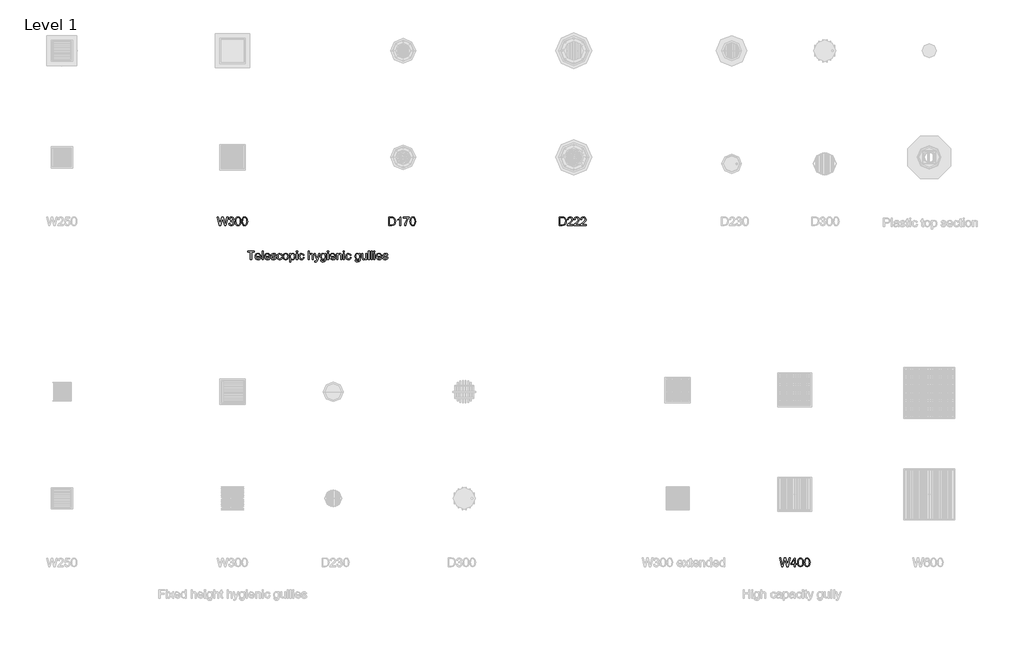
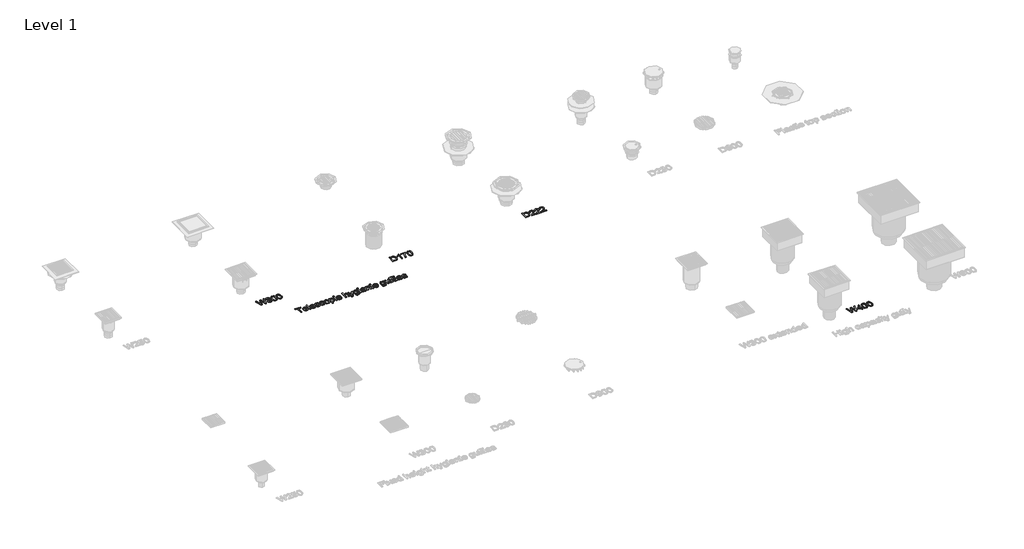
# One storey, part 4 of 5: 5 proxies.
"""IFC4 building model written with IfcOpenShell, lengths in millimetres."""

from ifc_helpers import new_model, si_unit, origin, origin_with_axes, place, context, project, spatial, polyline, outline, extrude, element, save

model = new_model("IFC4")

# Units and contexts
model_context = context("Model", 3, world=origin())
ifc_project = project(units=[si_unit("LENGTHUNIT", "METRE", prefix="MILLI")], contexts=[model_context])

# Site, building, storey
site = spatial("IfcSite", under=ifc_project)
building = spatial("IfcBuilding", under=site)
storey = spatial("IfcBuildingStorey", under=building, Name="Level 1", Elevation=0.0)

# Proxies
placement = place(None, origin())
element("IfcBuildingElementProxy", 1, Name="100mm ACO", ObjectType="100mm ACO", at=placement, inside=storey, context=model_context, shape_type="SweptSolid", body=[
    extrude(outline(polyline([(256.4814815, -2911.1111111), (223.1481481, -2911.1111111), (223.1481481, -3000.0), (210.1851852, -3000.0), (210.1851852, -2911.1111111), (176.8518519, -2911.1111111), (176.8518519, -2900.0), (256.4814815, -2900.0), (256.4814815, -2911.1111111)])), origin_with_axes(), (0.0, 0.0, 1.0), 10.0),
    extrude(outline(polyline([(332.4074074, -2966.6666667), (278.7037037, -2966.6666667), (280.7761863, -2977.7922454), (285.4890046, -2985.9375), (292.2706887, -2990.9288194), (300.5497685, -2992.5925926), (312.2251157, -2988.9033565), (319.4444444, -2977.7777778), (332.4074074, -2979.2824074), (328.0309606, -2988.9033565), (321.09375, -2996.0069444), (311.8489583, -3000.390625), (300.5497685, -3001.8518519), (285.9628183, -2999.3453414), (274.9565972, -2991.8258102), (268.0447049, -2979.9660012), (265.7407407, -2964.4386574), (267.9615162, -2948.900463), (274.6238426, -2936.6030093), (285.3226273, -2928.5951968), (299.6527778, -2925.9259259), (314.8726852, -2929.3836806), (327.3003472, -2941.1603009), (331.1306424, -2951.6963252), (332.4074074, -2966.6666667)]), holes=[polyline([(319.4444444, -2957.4074074), (317.3611111, -2947.2511574), (312.6157407, -2940.3935185), (299.3344907, -2935.1851852), (291.478588, -2936.7332176), (285.15625, -2941.3773148), (278.7037037, -2957.4074074), (319.4444444, -2957.4074074)])]), origin_with_axes(), (0.0, 0.0, 1.0), 10.0),
    extrude(outline(polyline([(360.1851852, -3000.0), (347.2222222, -3000.0), (347.2222222, -2900.0), (360.1851852, -2900.0), (360.1851852, -3000.0)])), origin_with_axes(), (0.0, 0.0, 1.0), 10.0),
    extrude(outline(polyline([(441.6666667, -2966.6666667), (387.962963, -2966.6666667), (390.0354456, -2977.7922454), (394.7482639, -2985.9375), (401.5299479, -2990.9288194), (409.8090278, -2992.5925926), (421.484375, -2988.9033565), (428.7037037, -2977.7777778), (441.6666667, -2979.2824074), (437.2902199, -2988.9033565), (430.3530093, -2996.0069444), (421.1082176, -3000.390625), (409.8090278, -3001.8518519), (395.2220775, -2999.3453414), (384.2158565, -2991.8258102), (377.3039641, -2979.9660012), (375.0, -2964.4386574), (377.2207755, -2948.900463), (383.8831019, -2936.6030093), (394.5818866, -2928.5951968), (408.912037, -2925.9259259), (424.1319444, -2929.3836806), (436.5596065, -2941.1603009), (440.3899016, -2951.6963252), (441.6666667, -2966.6666667)]), holes=[polyline([(428.7037037, -2957.4074074), (426.6203704, -2947.2511574), (421.875, -2940.3935185), (408.59375, -2935.1851852), (400.7378472, -2936.7332176), (394.4155093, -2941.3773148), (387.962963, -2957.4074074), (428.7037037, -2957.4074074)])]), origin_with_axes(), (0.0, 0.0, 1.0), 10.0),
    extrude(outline(polyline([(497.2222222, -2948.1481481), (492.4334491, -2938.4259259), (481.3657407, -2935.1851852), (470.0520833, -2937.962963), (465.7407407, -2946.0358796), (468.5908565, -2953.1828704), (482.03125, -2957.0601852), (499.7540509, -2961.2268519), (508.7962963, -2967.5491898), (512.037037, -2978.8773148), (510.0260417, -2987.8074363), (503.9930556, -2995.2112269), (494.5963542, -3000.1916956), (482.494213, -3001.8518519), (470.0195312, -3000.4557292), (460.6047454, -2996.2673611), (454.2426215, -2989.2939815), (450.9259259, -2979.5428241), (463.8888889, -2977.7777778), (469.4878472, -2988.9033565), (482.494213, -2992.5925926), (494.7916667, -2988.7586806), (499.0740741, -2979.4270833), (497.1498843, -2973.4519676), (492.3466435, -2970.0810185), (478.7615741, -2967.1875), (457.8269676, -2959.375), (452.7777778, -2946.7881944), (454.6477141, -2938.5018808), (460.2575231, -2931.8142361), (469.0285012, -2927.3980035), (480.3819444, -2925.9259259), (492.3140914, -2927.2135417), (501.2586806, -2931.0763889), (507.2157118, -2937.5072338), (510.1851852, -2946.4988426), (497.2222222, -2948.1481481)])), origin_with_axes(), (0.0, 0.0, 1.0), 10.0),
    extrude(outline(polyline([(586.1111111, -2975.5497685), (582.0818866, -2987.3553241), (574.9131944, -2995.5150463), (565.588831, -3000.2676505), (555.0925926, -3001.8518519), (540.7769097, -2999.2621528), (530.1215278, -2991.4930556), (523.5026042, -2979.4487847), (521.2962963, -2964.0335648), (526.3310185, -2941.3483796), (538.9322917, -2929.3836806), (554.8321759, -2925.9259259), (574.291088, -2931.5827546), (580.8268229, -2938.566985), (584.2592593, -2948.2060185), (571.2962963, -2950.0), (565.3935185, -2938.9033565), (554.9768519, -2935.1851852), (546.021412, -2937.0695891), (539.525463, -2942.7228009), (535.5758102, -2951.7541956), (534.2592593, -2963.7731481), (535.5794271, -2976.0018808), (539.5399306, -2985.083912), (545.98886, -2990.7154225), (554.7743056, -2992.5925926), (567.3755787, -2987.962963), (573.1481481, -2974.0740741), (586.1111111, -2975.5497685)])), origin_with_axes(), (0.0, 0.0, 1.0), 10.0),
    extrude(outline(polyline([(623.119213, -2925.9259259), (636.2955729, -2928.3203125), (647.0052083, -2935.5034722), (654.1124132, -2947.0992477), (656.4814815, -2962.7314815), (653.9171007, -2981.0040509), (646.2239583, -2992.9976852), (635.3190104, -2999.6383102), (623.119213, -3001.8518519), (610.5287905, -2999.5768229), (599.7251157, -2992.7517361), (592.29239, -2980.9859664), (589.8148148, -2963.8888889), (592.2092014, -2947.1715856), (599.3923611, -2935.3298611), (610.1128472, -2928.2769097), (623.119213, -2925.9259259)]), holes=[polyline([(623.119213, -2992.5925926), (631.92636, -2990.5852141), (638.3246528, -2984.5630787), (643.5185185, -2963.4259259), (642.0500579, -2951.1429398), (637.6446759, -2942.3032407), (631.0763889, -2936.9646991), (623.119213, -2935.1851852), (615.0065104, -2936.9900174), (608.4924769, -2942.4045139), (604.2064525, -2951.3925058), (602.7777778, -2963.9178241), (604.2317708, -2976.3997396), (608.59375, -2985.3732639), (615.1331019, -2990.7877604), (623.119213, -2992.5925926)])]), origin_with_axes(), (0.0, 0.0, 1.0), 10.0),
    extrude(outline(polyline([(684.3894676, -2936.4872685), (692.8457755, -2928.5662616), (704.5138889, -2925.9259259), (716.8402778, -2928.515625), (726.2731481, -2936.2847222), (732.2627315, -2948.2132523), (734.2592593, -2963.28125), (732.0023148, -2979.1702836), (725.2314815, -2991.4207176), (715.1765046, -2999.2440683), (703.0671296, -3001.8518519), (692.6938657, -2999.7251157), (684.6064815, -2993.3449074), (684.2592593, -3027.7777778), (671.2962963, -3027.7777778), (671.2962963, -2927.7777778), (684.2592593, -2927.7777778), (684.3894676, -2936.4872685)]), holes=[polyline([(701.6493056, -2992.5925926), (709.4220197, -2990.766059), (715.7262731, -2985.2864583), (719.9037905, -2976.1899595), (721.2962963, -2963.5127315), (719.9544271, -2951.4359086), (715.9288194, -2942.5202546), (709.8126447, -2937.0189525), (702.1990741, -2935.1851852), (694.317853, -2937.2287326), (687.9774306, -2943.359375), (683.7999132, -2952.7452257), (682.4074074, -2964.5543981), (683.7420428, -2976.66739), (687.7459491, -2985.4600694), (693.891059, -2990.8094618), (701.6493056, -2992.5925926)])]), origin_with_axes(), (0.0, 0.0, 1.0), 10.0),
    extrude(outline(polyline([(762.037037, -3000.0), (749.0740741, -3000.0), (749.0740741, -2927.7777778), (762.037037, -2927.7777778), (762.037037, -3000.0)])), origin_with_axes(), (0.0, 0.0, 1.0), 10.0),
    extrude(outline(polyline([(762.037037, -2912.962963), (749.0740741, -2912.962963), (749.0740741, -2900.0), (762.037037, -2900.0), (762.037037, -2912.962963)])), origin_with_axes(), (0.0, 0.0, 1.0), 10.0),
    extrude(outline(polyline([(841.6666667, -2975.5497685), (837.6374421, -2987.3553241), (830.46875, -2995.5150463), (821.1443866, -3000.2676505), (810.6481481, -3001.8518519), (796.3324653, -2999.2621528), (785.6770833, -2991.4930556), (779.0581597, -2979.4487847), (776.8518519, -2964.0335648), (781.8865741, -2941.3483796), (794.4878472, -2929.3836806), (810.3877315, -2925.9259259), (829.8466435, -2931.5827546), (836.3823785, -2938.566985), (839.8148148, -2948.2060185), (826.8518519, -2950.0), (820.9490741, -2938.9033565), (810.5324074, -2935.1851852), (801.5769676, -2937.0695891), (795.0810185, -2942.7228009), (791.1313657, -2951.7541956), (789.8148148, -2963.7731481), (791.1349826, -2976.0018808), (795.0954861, -2985.083912), (801.5444155, -2990.7154225), (810.3298611, -2992.5925926), (822.9311343, -2987.962963), (828.7037037, -2974.0740741), (841.6666667, -2975.5497685)])), origin_with_axes(), (0.0, 0.0, 1.0), 10.0),
    extrude(outline(polyline([(947.2222222, -3000.0), (934.2592593, -3000.0), (934.2592593, -2953.2986111), (930.5700231, -2939.7135417), (919.5601852, -2935.1851852), (906.6261574, -2940.5237269), (902.3509838, -2947.9564525), (900.9259259, -2959.5775463), (900.9259259, -3000.0), (887.962963, -3000.0), (887.962963, -2900.0), (900.9259259, -2900.0), (900.9259259, -2935.8217593), (910.6264468, -2928.3998843), (922.4826389, -2925.9259259), (935.7638889, -2928.7905093), (944.6614583, -2937.6012731), (947.2222222, -2954.1087963), (947.2222222, -3000.0)])), origin_with_axes(), (0.0, 0.0, 1.0), 10.0),
    extrude(outline(polyline([(1023.1481481, -2927.7777778), (995.9780093, -3001.9386574), (986.9357639, -3021.2818287), (980.8485243, -3026.1537905), (972.6273148, -3027.7777778), (965.0462963, -3026.6203704), (963.8888889, -3016.6666667), (970.4282407, -3018.5185185), (979.2824074, -3014.5543981), (985.15625, -3001.0706019), (958.3333333, -2927.7777778), (970.0520833, -2927.7777778), (987.6736111, -2973.8715278), (991.0011574, -2984.8090278), (995.9201389, -2971.1226852), (1011.4583333, -2927.7777778), (1023.1481481, -2927.7777778)])), origin_with_axes(), (0.0, 0.0, 1.0), 10.0),
    extrude(outline(polyline([(1093.5185185, -2989.3518519), (1090.4658565, -3011.9936343), (1079.6006944, -3023.6255787), (1060.9375, -3027.7777778), (1049.7214988, -3026.3708044), (1040.552662, -3022.1498843), (1034.4437211, -3014.7243924), (1032.4074074, -3003.7037037), (1045.3703704, -3005.7581019), (1049.9421296, -3015.3211806), (1061.1400463, -3018.5185185), (1074.4502315, -3014.8292824), (1079.615162, -3005.8449074), (1080.5555556, -2991.2326389), (1071.7809606, -2997.8081597), (1060.9664352, -3000.0), (1048.5749421, -2997.3885995), (1038.8888889, -2989.5543981), (1032.6388889, -2977.7416088), (1030.5555556, -2963.1944444), (1032.5376157, -2948.5532407), (1038.4837963, -2936.5740741), (1047.9311343, -2928.587963), (1060.4166667, -2925.9259259), (1071.4916088, -2928.3058449), (1080.2951389, -2935.4456019), (1080.5555556, -2927.7777778), (1093.5185185, -2927.7777778), (1093.5185185, -2989.3518519)]), holes=[polyline([(1062.9050926, -2990.7407407), (1070.1171875, -2989.134838), (1076.4756944, -2984.3171296), (1080.9244792, -2975.7233796), (1082.4074074, -2962.7893519), (1080.9932002, -2951.0018808), (1076.7505787, -2942.3177083), (1070.4246238, -2936.968316), (1062.7604167, -2935.1851852), (1055.0383391, -2937.0117187), (1048.8859954, -2942.4913194), (1044.8603877, -2951.1465567), (1043.5185185, -2962.5), (1044.9254919, -2975.2170139), (1049.146412, -2983.9699074), (1055.4000289, -2989.0480324), (1062.9050926, -2990.7407407)])]), origin_with_axes(), (0.0, 0.0, 1.0), 10.0),
    extrude(outline(polyline([(1125.0, -2912.962963), (1112.037037, -2912.962963), (1112.037037, -2900.0), (1125.0, -2900.0), (1125.0, -2912.962963)])), origin_with_axes(), (0.0, 0.0, 1.0), 10.0),
    extrude(outline(polyline([(1125.0, -3000.0), (1112.037037, -3000.0), (1112.037037, -2927.7777778), (1125.0, -2927.7777778), (1125.0, -3000.0)])), origin_with_axes(), (0.0, 0.0, 1.0), 10.0),
    extrude(outline(polyline([(1206.4814815, -2966.6666667), (1152.7777778, -2966.6666667), (1154.8502604, -2977.7922454), (1159.5630787, -2985.9375), (1166.3447627, -2990.9288194), (1174.6238426, -2992.5925926), (1186.2991898, -2988.9033565), (1193.5185185, -2977.7777778), (1206.4814815, -2979.2824074), (1202.1050347, -2988.9033565), (1195.1678241, -2996.0069444), (1185.9230324, -3000.390625), (1174.6238426, -3001.8518519), (1160.0368924, -2999.3453414), (1149.0306713, -2991.8258102), (1142.1187789, -2979.9660012), (1139.8148148, -2964.4386574), (1142.0355903, -2948.900463), (1148.6979167, -2936.6030093), (1159.3967014, -2928.5951968), (1173.7268519, -2925.9259259), (1188.9467593, -2929.3836806), (1201.3744213, -2941.1603009), (1205.2047164, -2951.6963252), (1206.4814815, -2966.6666667)]), holes=[polyline([(1193.5185185, -2957.4074074), (1191.4351852, -2947.2511574), (1186.6898148, -2940.3935185), (1173.4085648, -2935.1851852), (1165.552662, -2936.7332176), (1159.2303241, -2941.3773148), (1152.7777778, -2957.4074074), (1193.5185185, -2957.4074074)])]), origin_with_axes(), (0.0, 0.0, 1.0), 10.0),
    extrude(outline(polyline([(1280.5555556, -3000.0), (1267.5925926, -3000.0), (1267.5925926, -2955.0347222), (1263.7297454, -2939.4386574), (1252.9803241, -2935.1851852), (1242.9542824, -2937.9050926), (1236.2413194, -2945.5729167), (1234.2592593, -2959.5775463), (1234.2592593, -3000.0), (1221.2962963, -3000.0), (1221.2962963, -2927.7777778), (1232.4074074, -2927.7777778), (1232.4074074, -2937.818287), (1242.3032407, -2928.8917824), (1255.5555556, -2925.9259259), (1266.9270833, -2927.9803241), (1275.7233796, -2934.1290509), (1279.7309028, -2942.8674769), (1280.5555556, -2955.4108796), (1280.5555556, -3000.0)])), origin_with_axes(), (0.0, 0.0, 1.0), 10.0),
    extrude(outline(polyline([(1312.037037, -2912.962963), (1299.0740741, -2912.962963), (1299.0740741, -2900.0), (1312.037037, -2900.0), (1312.037037, -2912.962963)])), origin_with_axes(), (0.0, 0.0, 1.0), 10.0),
    extrude(outline(polyline([(1312.037037, -3000.0), (1299.0740741, -3000.0), (1299.0740741, -2927.7777778), (1312.037037, -2927.7777778), (1312.037037, -3000.0)])), origin_with_axes(), (0.0, 0.0, 1.0), 10.0),
    extrude(outline(polyline([(1391.6666667, -2975.5497685), (1387.6374421, -2987.3553241), (1380.46875, -2995.5150463), (1371.1443866, -3000.2676505), (1360.6481481, -3001.8518519), (1346.3324653, -2999.2621528), (1335.6770833, -2991.4930556), (1329.0581597, -2979.4487847), (1326.8518519, -2964.0335648), (1331.8865741, -2941.3483796), (1344.4878472, -2929.3836806), (1360.3877315, -2925.9259259), (1379.8466435, -2931.5827546), (1386.3823785, -2938.566985), (1389.8148148, -2948.2060185), (1376.8518519, -2950.0), (1370.9490741, -2938.9033565), (1360.5324074, -2935.1851852), (1351.5769676, -2937.0695891), (1345.0810185, -2942.7228009), (1341.1313657, -2951.7541956), (1339.8148148, -2963.7731481), (1341.1349826, -2976.0018808), (1345.0954861, -2985.083912), (1351.5444155, -2990.7154225), (1360.3298611, -2992.5925926), (1372.9311343, -2987.962963), (1378.7037037, -2974.0740741), (1391.6666667, -2975.5497685)])), origin_with_axes(), (0.0, 0.0, 1.0), 10.0),
    extrude(outline(polyline([(1497.2222222, -2989.3518519), (1494.1695602, -3011.9936343), (1483.3043981, -3023.6255787), (1464.6412037, -3027.7777778), (1453.4252025, -3026.3708044), (1444.2563657, -3022.1498843), (1438.1474248, -3014.7243924), (1436.1111111, -3003.7037037), (1449.0740741, -3005.7581019), (1453.6458333, -3015.3211806), (1464.84375, -3018.5185185), (1478.1539352, -3014.8292824), (1483.3188657, -3005.8449074), (1484.2592593, -2991.2326389), (1475.4846644, -2997.8081597), (1464.6701389, -3000.0), (1452.2786458, -2997.3885995), (1442.5925926, -2989.5543981), (1436.3425926, -2977.7416088), (1434.2592593, -2963.1944444), (1436.2413194, -2948.5532407), (1442.1875, -2936.5740741), (1451.634838, -2928.587963), (1464.1203704, -2925.9259259), (1475.1953125, -2928.3058449), (1483.9988426, -2935.4456019), (1484.2592593, -2927.7777778), (1497.2222222, -2927.7777778), (1497.2222222, -2989.3518519)]), holes=[polyline([(1466.6087963, -2990.7407407), (1473.8208912, -2989.134838), (1480.1793981, -2984.3171296), (1484.6281829, -2975.7233796), (1486.1111111, -2962.7893519), (1484.6969039, -2951.0018808), (1480.4542824, -2942.3177083), (1474.1283275, -2936.968316), (1466.4641204, -2935.1851852), (1458.7420428, -2937.0117187), (1452.5896991, -2942.4913194), (1448.5640914, -2951.1465567), (1447.2222222, -2962.5), (1448.6291956, -2975.2170139), (1452.8501157, -2983.9699074), (1459.1037326, -2989.0480324), (1466.6087963, -2990.7407407)])]), origin_with_axes(), (0.0, 0.0, 1.0), 10.0),
    extrude(outline(polyline([(1575.0, -3000.0), (1563.8888889, -3000.0), (1563.8888889, -2989.4965278), (1553.6458333, -2998.7630208), (1540.6828704, -3001.8518519), (1526.5625, -2998.3362269), (1517.9108796, -2988.6574074), (1515.7407407, -2972.65625), (1515.7407407, -2927.7777778), (1528.7037037, -2927.7777778), (1528.7037037, -2968.75), (1529.6006944, -2982.8414352), (1534.2881944, -2989.84375), (1543.3159722, -2992.5925926), (1556.0619213, -2987.6736111), (1560.5432581, -2980.1215278), (1562.037037, -2967.3032407), (1562.037037, -2927.7777778), (1575.0, -2927.7777778), (1575.0, -3000.0)])), origin_with_axes(), (0.0, 0.0, 1.0), 10.0),
    extrude(outline(polyline([(1606.4814815, -3000.0), (1593.5185185, -3000.0), (1593.5185185, -2900.0), (1606.4814815, -2900.0), (1606.4814815, -3000.0)])), origin_with_axes(), (0.0, 0.0, 1.0), 10.0),
    extrude(outline(polyline([(1637.962963, -3000.0), (1625.0, -3000.0), (1625.0, -2900.0), (1637.962963, -2900.0), (1637.962963, -3000.0)])), origin_with_axes(), (0.0, 0.0, 1.0), 10.0),
    extrude(outline(polyline([(1669.4444444, -2912.962963), (1656.4814815, -2912.962963), (1656.4814815, -2900.0), (1669.4444444, -2900.0), (1669.4444444, -2912.962963)])), origin_with_axes(), (0.0, 0.0, 1.0), 10.0),
    extrude(outline(polyline([(1669.4444444, -3000.0), (1656.4814815, -3000.0), (1656.4814815, -2927.7777778), (1669.4444444, -2927.7777778), (1669.4444444, -3000.0)])), origin_with_axes(), (0.0, 0.0, 1.0), 10.0),
    extrude(outline(polyline([(1750.9259259, -2966.6666667), (1697.2222222, -2966.6666667), (1699.2947049, -2977.7922454), (1704.0075231, -2985.9375), (1710.7892072, -2990.9288194), (1719.068287, -2992.5925926), (1730.7436343, -2988.9033565), (1737.962963, -2977.7777778), (1750.9259259, -2979.2824074), (1746.5494792, -2988.9033565), (1739.6122685, -2996.0069444), (1730.3674769, -3000.390625), (1719.068287, -3001.8518519), (1704.4813368, -2999.3453414), (1693.4751157, -2991.8258102), (1686.5632234, -2979.9660012), (1684.2592593, -2964.4386574), (1686.4800347, -2948.900463), (1693.1423611, -2936.6030093), (1703.8411458, -2928.5951968), (1718.1712963, -2925.9259259), (1733.3912037, -2929.3836806), (1745.8188657, -2941.1603009), (1749.6491609, -2951.6963252), (1750.9259259, -2966.6666667)]), holes=[polyline([(1737.962963, -2957.4074074), (1735.8796296, -2947.2511574), (1731.1342593, -2940.3935185), (1717.8530093, -2935.1851852), (1709.9971065, -2936.7332176), (1703.6747685, -2941.3773148), (1697.2222222, -2957.4074074), (1737.962963, -2957.4074074)])]), origin_with_axes(), (0.0, 0.0, 1.0), 10.0),
    extrude(outline(polyline([(1806.4814815, -2948.1481481), (1801.6927083, -2938.4259259), (1790.625, -2935.1851852), (1779.3113426, -2937.962963), (1775.0, -2946.0358796), (1777.8501157, -2953.1828704), (1791.2905093, -2957.0601852), (1809.0133102, -2961.2268519), (1818.0555556, -2967.5491898), (1821.2962963, -2978.8773148), (1819.2853009, -2987.8074363), (1813.2523148, -2995.2112269), (1803.8556134, -3000.1916956), (1791.7534722, -3001.8518519), (1779.2787905, -3000.4557292), (1769.8640046, -2996.2673611), (1763.5018808, -2989.2939815), (1760.1851852, -2979.5428241), (1773.1481481, -2977.7777778), (1778.7471065, -2988.9033565), (1791.7534722, -2992.5925926), (1804.0509259, -2988.7586806), (1808.3333333, -2979.4270833), (1806.4091435, -2973.4519676), (1801.6059028, -2970.0810185), (1788.0208333, -2967.1875), (1767.0862269, -2959.375), (1762.037037, -2946.7881944), (1763.9069734, -2938.5018808), (1769.5167824, -2931.8142361), (1778.2877604, -2927.3980035), (1789.6412037, -2925.9259259), (1801.5733507, -2927.2135417), (1810.5179398, -2931.0763889), (1816.4749711, -2937.5072338), (1819.4444444, -2946.4988426), (1806.4814815, -2948.1481481)])), origin_with_axes(), (0.0, 0.0, 1.0), 10.0),
])
element("IfcBuildingElementProxy", 2, Name="100mm ACO", ObjectType="100mm ACO", at=placement, inside=storey, context=model_context, shape_type="SweptSolid", body=[
    extrude(outline(polyline([(-51.8518519, -2500.0), (-78.0092593, -2600.0), (-93.8657407, -2600.0), (-113.744213, -2521.1516204), (-115.7407407, -2511.9502315), (-118.75, -2523.8136574), (-139.6990741, -2600.0), (-153.587963, -2600.0), (-179.6296296, -2500.0), (-166.3194444, -2500.0), (-151.1863426, -2565.6828704), (-147.3668981, -2584.6643519), (-142.7083333, -2567.505787), (-123.8425926, -2500.0), (-107.494213, -2500.0), (-93.8078704, -2550.6076389), (-86.3715278, -2586.1111111), (-81.25, -2564.3229167), (-65.2199074, -2500.0), (-51.8518519, -2500.0)])), origin_with_axes(), (0.0, 0.0, 1.0), 10.0),
    extrude(outline(polyline([(1.1863426, -2546.3975694), (9.516059, -2549.6346933), (15.5237269, -2555.4253472), (20.3703704, -2570.9490741), (17.8457755, -2583.2573785), (10.2719907, -2593.1568287), (-0.817419, -2599.6780961), (-13.8888889, -2601.8518519), (-26.1682581, -2599.9348958), (-36.0966435, -2594.1840278), (-43.0230035, -2585.2864583), (-46.2962963, -2573.9293981), (-33.3333333, -2572.2222222), (-26.5046296, -2587.5144676), (-13.4548611, -2592.5925926), (-5.3855613, -2591.0662616), (1.3454861, -2586.4872685), (5.8919271, -2579.6947338), (7.4074074, -2571.5277778), (5.9859664, -2563.7695312), (1.7216435, -2557.4508102), (-4.8357928, -2553.2515914), (-13.1365741, -2551.8518519), (-22.2222222, -2553.7037037), (-20.775463, -2542.5925926), (-12.9050926, -2542.1006944), (-6.4236111, -2539.6990741), (-0.4918981, -2534.2303241), (1.8518519, -2525.4050926), (-2.9369213, -2513.4837963), (-14.0335648, -2509.2592593), (-25.7667824, -2514.0625), (-31.4814815, -2527.7777778), (-44.4444444, -2525.5497685), (-40.6069155, -2514.3627025), (-33.8975694, -2506.3802083), (-24.9529803, -2501.5950521), (-14.4097222, -2500.0), (-2.9441551, -2501.8916377), (6.4525463, -2507.5665509), (12.7242477, -2515.9758391), (14.8148148, -2526.0706019), (11.4076968, -2538.1365741), (1.1863426, -2546.3975694)])), origin_with_axes(), (0.0, 0.0, 1.0), 10.0),
    extrude(outline(polyline([(64.7858796, -2500.0), (79.3818721, -2503.1864873), (89.807581, -2512.7459491), (96.0630064, -2528.6783854), (98.1481481, -2550.9837963), (95.9924769, -2573.4555845), (89.525463, -2589.3084491), (79.0292245, -2598.7160012), (64.7858796, -2601.8518519), (50.2152054, -2598.6725984), (39.807581, -2589.134838), (33.5630064, -2573.2385706), (31.4814815, -2550.9837963), (33.6371528, -2528.515625), (40.1041667, -2512.6157407), (50.5859375, -2503.1539352), (64.7858796, -2500.0)]), holes=[polyline([(64.8148148, -2592.5925926), (73.6545139, -2590.1584201), (80.0347222, -2582.8559028), (83.8975694, -2570.0195312), (85.1851852, -2550.9837963), (82.9282407, -2526.7650463), (76.1140046, -2513.599537), (64.6701389, -2509.2592593), (55.8485243, -2511.7368345), (49.5225694, -2519.1695602), (45.7139757, -2532.0782697), (44.4444444, -2550.9837963), (46.7447917, -2575.0434028), (53.5590278, -2588.2523148), (64.8148148, -2592.5925926)])]), origin_with_axes(), (0.0, 0.0, 1.0), 10.0),
    extrude(outline(polyline([(142.5636574, -2500.0), (157.1596499, -2503.1864873), (167.5853588, -2512.7459491), (173.8407841, -2528.6783854), (175.9259259, -2550.9837963), (173.7702546, -2573.4555845), (167.3032407, -2589.3084491), (156.8070023, -2598.7160012), (142.5636574, -2601.8518519), (127.9929832, -2598.6725984), (117.5853588, -2589.134838), (111.3407841, -2573.2385706), (109.2592593, -2550.9837963), (111.4149306, -2528.515625), (117.8819444, -2512.6157407), (128.3637153, -2503.1539352), (142.5636574, -2500.0)]), holes=[polyline([(142.5925926, -2592.5925926), (151.4322917, -2590.1584201), (157.8125, -2582.8559028), (161.6753472, -2570.0195312), (162.962963, -2550.9837963), (160.7060185, -2526.7650463), (153.8917824, -2513.599537), (142.4479167, -2509.2592593), (133.6263021, -2511.7368345), (127.3003472, -2519.1695602), (123.4917535, -2532.0782697), (122.2222222, -2550.9837963), (124.5225694, -2575.0434028), (131.3368056, -2588.2523148), (142.5925926, -2592.5925926)])]), origin_with_axes(), (0.0, 0.0, 1.0), 10.0),
])
element("IfcBuildingElementProxy", 3, Name="100mm ACO", ObjectType="100mm ACO", at=placement, inside=storey, context=model_context, shape_type="SweptSolid", body=[
    extrude(outline(polyline([(1829.6296296, -2500.0), (1863.6574074, -2500.0), (1879.0509259, -2500.9259259), (1891.3773148, -2505.4253472), (1901.6637731, -2515.2777778), (1908.59375, -2529.7019676), (1911.1111111, -2549.4502315), (1908.521412, -2569.5855035), (1900.7523148, -2585.7783565), (1886.6681134, -2596.4445891), (1865.1331019, -2600.0), (1829.6296296, -2600.0), (1829.6296296, -2500.0)]), holes=[polyline([(1842.5925926, -2588.8888889), (1863.9178241, -2588.8888889), (1875.5642361, -2588.0497685), (1885.9664352, -2583.521412), (1894.6903935, -2571.4265046), (1898.1481481, -2549.1608796), (1896.8171296, -2534.8668981), (1891.9270833, -2522.7575231), (1883.7528935, -2514.7569444), (1874.7540509, -2511.6608796), (1863.5127315, -2511.1111111), (1842.5925926, -2511.1111111), (1842.5925926, -2588.8888889)])]), origin_with_axes(), (0.0, 0.0, 1.0), 10.0),
    extrude(outline(polyline([(1972.2222222, -2600.0), (1959.2592593, -2600.0), (1959.2592593, -2522.2222222), (1935.1851852, -2537.037037), (1935.1851852, -2527.7777778), (1953.4577546, -2516.0590278), (1964.8148148, -2501.8518519), (1972.2222222, -2501.8518519), (1972.2222222, -2600.0)])), origin_with_axes(), (0.0, 0.0, 1.0), 10.0),
    extrude(outline(polyline([(2068.5185185, -2509.2592593), (2054.4885706, -2528.8085937), (2042.4913194, -2551.1140046), (2033.7854456, -2575.177228), (2029.6296296, -2600.0), (2016.6666667, -2600.0), (2019.5710359, -2578.7688079), (2027.3003472, -2555.6423611), (2052.34375, -2511.1111111), (2001.8518519, -2511.1111111), (2001.8518519, -2501.8518519), (2068.5185185, -2501.8518519), (2068.5185185, -2509.2592593)])), origin_with_axes(), (0.0, 0.0, 1.0), 10.0),
    extrude(outline(polyline([(2112.9340278, -2500.0), (2127.5300203, -2503.1864873), (2137.9557292, -2512.7459491), (2144.2111545, -2528.6783854), (2146.2962963, -2550.9837963), (2144.140625, -2573.4555845), (2137.6736111, -2589.3084491), (2127.1773727, -2598.7160012), (2112.9340278, -2601.8518519), (2098.3633536, -2598.6725984), (2087.9557292, -2589.134838), (2081.7111545, -2573.2385706), (2079.6296296, -2550.9837963), (2081.7853009, -2528.515625), (2088.2523148, -2512.6157407), (2098.7340856, -2503.1539352), (2112.9340278, -2500.0)]), holes=[polyline([(2112.962963, -2592.5925926), (2121.802662, -2590.1584201), (2128.1828704, -2582.8559028), (2132.0457176, -2570.0195312), (2133.3333333, -2550.9837963), (2131.0763889, -2526.7650463), (2124.2621528, -2513.599537), (2112.818287, -2509.2592593), (2103.9966725, -2511.7368345), (2097.6707176, -2519.1695602), (2093.8621238, -2532.0782697), (2092.5925926, -2550.9837963), (2094.8929398, -2575.0434028), (2101.7071759, -2588.2523148), (2112.962963, -2592.5925926)])]), origin_with_axes(), (0.0, 0.0, 1.0), 10.0),
])
element("IfcBuildingElementProxy", 4, Name="100mm ACO", ObjectType="100mm ACO", at=placement, inside=storey, context=model_context, shape_type="SweptSolid", body=[
    extrude(outline(polyline([(3829.6296296, -2500.0), (3863.6574074, -2500.0), (3879.0509259, -2500.9259259), (3891.3773148, -2505.4253472), (3901.6637731, -2515.2777778), (3908.59375, -2529.7019676), (3911.1111111, -2549.4502315), (3908.521412, -2569.5855035), (3900.7523148, -2585.7783565), (3886.6681134, -2596.4445891), (3865.1331019, -2600.0), (3829.6296296, -2600.0), (3829.6296296, -2500.0)]), holes=[polyline([(3842.5925926, -2588.8888889), (3863.9178241, -2588.8888889), (3875.5642361, -2588.0497685), (3885.9664352, -2583.521412), (3894.6903935, -2571.4265046), (3898.1481481, -2549.1608796), (3896.8171296, -2534.8668981), (3891.9270833, -2522.7575231), (3883.7528935, -2514.7569444), (3874.7540509, -2511.6608796), (3863.5127315, -2511.1111111), (3842.5925926, -2511.1111111), (3842.5925926, -2588.8888889)])]), origin_with_axes(), (0.0, 0.0, 1.0), 10.0),
    extrude(outline(polyline([(3988.8888889, -2600.0), (3922.2222222, -2600.0), (3928.1828704, -2584.4039352), (3950.2025463, -2562.7893519), (3967.96875, -2545.4571759), (3973.9366319, -2536.4293981), (3975.9259259, -2527.34375), (3970.5005787, -2514.380787), (3956.7997685, -2509.2592593), (3942.7662037, -2514.3663194), (3938.4982639, -2520.7356771), (3937.037037, -2529.6296296), (3924.0740741, -2528.2407407), (3927.2135417, -2516.1385995), (3934.2592593, -2507.2627315), (3944.4733796, -2501.8156829), (3957.1180556, -2500.0), (3970.4752604, -2502.0869502), (3980.5121528, -2508.3478009), (3986.7947049, -2517.5600405), (3988.8888889, -2528.5011574), (3987.1383102, -2538.4042245), (3981.8865741, -2548.4375), (3954.4560185, -2575.9548611), (3938.8888889, -2590.7407407), (3988.8888889, -2590.7407407), (3988.8888889, -2600.0)])), origin_with_axes(), (0.0, 0.0, 1.0), 10.0),
    extrude(outline(polyline([(4066.6666667, -2600.0), (4000.0, -2600.0), (4005.9606481, -2584.4039352), (4027.9803241, -2562.7893519), (4045.7465278, -2545.4571759), (4051.7144097, -2536.4293981), (4053.7037037, -2527.34375), (4048.2783565, -2514.380787), (4034.5775463, -2509.2592593), (4020.5439815, -2514.3663194), (4016.2760417, -2520.7356771), (4014.8148148, -2529.6296296), (4001.8518519, -2528.2407407), (4004.9913194, -2516.1385995), (4012.037037, -2507.2627315), (4022.2511574, -2501.8156829), (4034.8958333, -2500.0), (4048.2530382, -2502.0869502), (4058.2899306, -2508.3478009), (4064.5724826, -2517.5600405), (4066.6666667, -2528.5011574), (4064.916088, -2538.4042245), (4059.6643519, -2548.4375), (4032.2337963, -2575.9548611), (4016.6666667, -2590.7407407), (4066.6666667, -2590.7407407), (4066.6666667, -2600.0)])), origin_with_axes(), (0.0, 0.0, 1.0), 10.0),
    extrude(outline(polyline([(4144.4444444, -2600.0), (4077.7777778, -2600.0), (4083.7384259, -2584.4039352), (4105.7581019, -2562.7893519), (4123.5243056, -2545.4571759), (4129.4921875, -2536.4293981), (4131.4814815, -2527.34375), (4126.0561343, -2514.380787), (4112.3553241, -2509.2592593), (4098.3217593, -2514.3663194), (4094.0538194, -2520.7356771), (4092.5925926, -2529.6296296), (4079.6296296, -2528.2407407), (4082.7690972, -2516.1385995), (4089.8148148, -2507.2627315), (4100.0289352, -2501.8156829), (4112.6736111, -2500.0), (4126.030816, -2502.0869502), (4136.0677083, -2508.3478009), (4142.3502604, -2517.5600405), (4144.4444444, -2528.5011574), (4142.6938657, -2538.4042245), (4137.4421296, -2548.4375), (4110.0115741, -2575.9548611), (4094.4444444, -2590.7407407), (4144.4444444, -2590.7407407), (4144.4444444, -2600.0)])), origin_with_axes(), (0.0, 0.0, 1.0), 10.0),
])
element("IfcBuildingElementProxy", 5, Name="100mm ACO", ObjectType="100mm ACO", at=placement, inside=storey, context=model_context, shape_type="SweptSolid", body=[
    extrude(outline(polyline([(6539.159085, -6499.4155147), (6512.8487914, -6600.0), (6496.8996311, -6600.0), (6476.9049721, -6520.6907632), (6474.896775, -6511.4355935), (6471.869927, -6523.3683594), (6450.7984087, -6600.0), (6436.8283413, -6600.0), (6410.6344649, -6499.4155147), (6424.0224462, -6499.4155147), (6439.2439988, -6565.4822918), (6443.0857673, -6584.5747172), (6447.7715607, -6567.3158631), (6466.747569, -6499.4155147), (6483.1915025, -6499.4155147), (6496.9578397, -6550.3189478), (6504.4376467, -6586.0299326), (6509.589109, -6564.1143894), (6525.7128951, -6499.4155147), (6539.159085, -6499.4155147)])), origin_with_axes(), (0.0, 0.0, 1.0), 10.0),
    extrude(outline(polyline([(6609.9407599, -6575.7852165), (6596.9020303, -6575.7852165), (6596.9020303, -6600.0), (6583.8633007, -6600.0), (6583.8633007, -6575.7852165), (6541.0217607, -6575.7852165), (6541.0217607, -6566.4718382), (6586.1916453, -6501.2781903), (6596.9020303, -6501.2781903), (6596.9020303, -6566.4718382), (6609.9407599, -6566.4718382), (6609.9407599, -6575.7852165)]), holes=[polyline([(6583.8633007, -6566.4718382), (6583.8633007, -6520.3124072), (6551.9067715, -6566.4718382), (6583.8633007, -6566.4718382)])]), origin_with_axes(), (0.0, 0.0, 1.0), 10.0),
    extrude(outline(polyline([(6656.4785469, -6499.4155147), (6671.1598508, -6502.6206265), (6681.6464965, -6512.235962), (6687.9384839, -6528.261521), (6690.035813, -6550.6973038), (6687.8675421, -6573.3004363), (6681.3627295, -6589.2459585), (6670.8051421, -6598.7084964), (6656.4785469, -6601.8626757), (6641.8227093, -6598.6648399), (6631.3542538, -6589.0713327), (6625.0731805, -6573.082154), (6622.9794895, -6550.6973038), (6625.1477603, -6528.0978093), (6631.652573, -6512.1049926), (6642.1956082, -6502.5878842), (6656.4785469, -6499.4155147)]), holes=[polyline([(6656.5076512, -6592.5492974), (6665.399017, -6590.1008975), (6671.8165168, -6582.755698), (6675.7019418, -6569.8442998), (6676.9970834, -6550.6973038), (6674.7269475, -6526.3369987), (6667.8728831, -6513.094539), (6656.3621297, -6508.728893), (6647.4889541, -6511.2209492), (6641.1260249, -6518.6971181), (6637.2951705, -6531.6812771), (6636.018219, -6550.6973038), (6638.3320114, -6574.8975351), (6645.1860758, -6588.1836513), (6656.5076512, -6592.5492974)])]), origin_with_axes(), (0.0, 0.0, 1.0), 10.0),
    extrude(outline(polyline([(6734.7109244, -6499.4155147), (6749.3922283, -6502.6206265), (6759.878874, -6512.235962), (6766.1708613, -6528.261521), (6768.2681905, -6550.6973038), (6766.0999196, -6573.3004363), (6759.595107, -6589.2459585), (6749.0375196, -6598.7084964), (6734.7109244, -6601.8626757), (6720.0550867, -6598.6648399), (6709.5866313, -6589.0713327), (6703.305558, -6573.082154), (6701.2118669, -6550.6973038), (6703.3801378, -6528.0978093), (6709.8849504, -6512.1049926), (6720.4279857, -6502.5878842), (6734.7109244, -6499.4155147)]), holes=[polyline([(6734.7400287, -6592.5492974), (6743.6313945, -6590.1008975), (6750.0488942, -6582.755698), (6753.9343192, -6569.8442998), (6755.2294609, -6550.6973038), (6752.9593249, -6526.3369987), (6746.1052606, -6513.094539), (6734.5945072, -6508.728893), (6725.7213315, -6511.2209492), (6719.3584024, -6518.6971181), (6715.527548, -6531.6812771), (6714.2505965, -6550.6973038), (6716.5643889, -6574.8975351), (6723.4184532, -6588.1836513), (6734.7400287, -6592.5492974)])]), origin_with_axes(), (0.0, 0.0, 1.0), 10.0),
])

save(model, "model.ifc")
